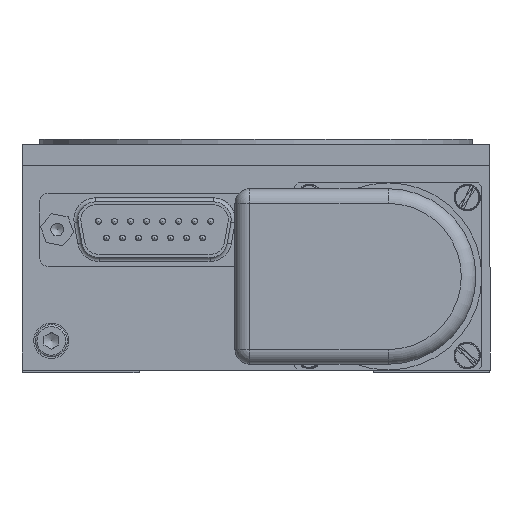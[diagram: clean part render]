
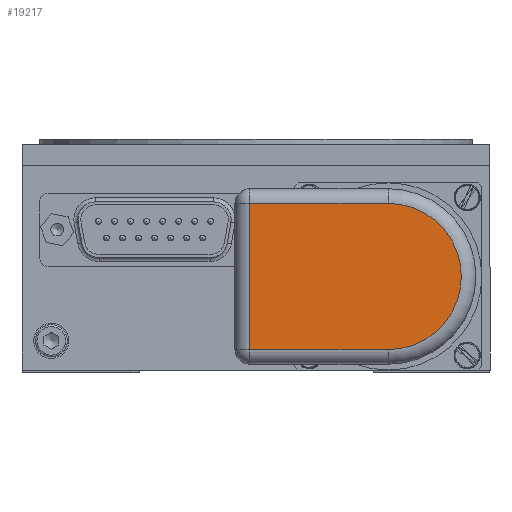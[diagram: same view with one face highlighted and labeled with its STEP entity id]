
A CAD part, left-side view. The second image highlights one B-rep face of the part: STEP entity #19217.
In plain terms, the highlighted planar face has unit normal (-1, 0, 0) as drawn and (0, 0, -1) by its records, which use the part's own axes.
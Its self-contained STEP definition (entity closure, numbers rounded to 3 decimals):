
#1429=PLANE('',#20945);
#2634=FACE_OUTER_BOUND('',#3852,.T.);
#3852=EDGE_LOOP('',(#16595,#16596,#16597,#16598));
#5263=LINE('',#34305,#6645);
#5268=LINE('',#34321,#6650);
#5270=LINE('',#34324,#6652);
#6645=VECTOR('',#25238,10.);
#6650=VECTOR('',#25257,10.);
#6652=VECTOR('',#25261,10.);
#7370=CIRCLE('',#20934,12.5);
#9087=VERTEX_POINT('',#34291);
#9090=VERTEX_POINT('',#34298);
#9092=VERTEX_POINT('',#34303);
#9094=VERTEX_POINT('',#34309);
#11618=EDGE_CURVE('',#9092,#9090,#5263,.T.);
#11621=EDGE_CURVE('',#9094,#9092,#7370,.T.);
#11627=EDGE_CURVE('',#9090,#9087,#5268,.T.);
#11629=EDGE_CURVE('',#9087,#9094,#5270,.T.);
#16595=ORIENTED_EDGE('',*,*,#11618,.F.);
#16596=ORIENTED_EDGE('',*,*,#11621,.F.);
#16597=ORIENTED_EDGE('',*,*,#11629,.F.);
#16598=ORIENTED_EDGE('',*,*,#11627,.F.);
#19217=ADVANCED_FACE('',(#2634),#1429,.F.);
#20934=AXIS2_PLACEMENT_3D('',#34311,#25244,#25245);
#20945=AXIS2_PLACEMENT_3D('',#34339,#25277,#25278);
#25238=DIRECTION('',(1.,0.,0.));
#25244=DIRECTION('center_axis',(0.,0.,
1.));
#25245=DIRECTION('ref_axis',(-1.,0.,0.));
#25257=DIRECTION('',(0.,1.,0.));
#25261=DIRECTION('',(-1.,0.,0.));
#25277=DIRECTION('center_axis',(0.,0.,
1.));
#25278=DIRECTION('ref_axis',(-1.,0.,0.));
#34291=CARTESIAN_POINT('',(23.7,12.5,-46.75));
#34298=CARTESIAN_POINT('',(23.7,-12.5,-46.75));
#34303=CARTESIAN_POINT('',(0.,-12.5,-46.75));
#34305=CARTESIAN_POINT('',(7.25,-12.5,-46.75));
#34309=CARTESIAN_POINT('',(0.,12.5,-46.75));
#34311=CARTESIAN_POINT('Origin',(0.,0.,
-46.75));
#34321=CARTESIAN_POINT('',(23.7,-7.5,-46.75));
#34324=CARTESIAN_POINT('',(20.35,12.5,-46.75));
#34339=CARTESIAN_POINT('Origin',(14.5,0.,
-46.75));
